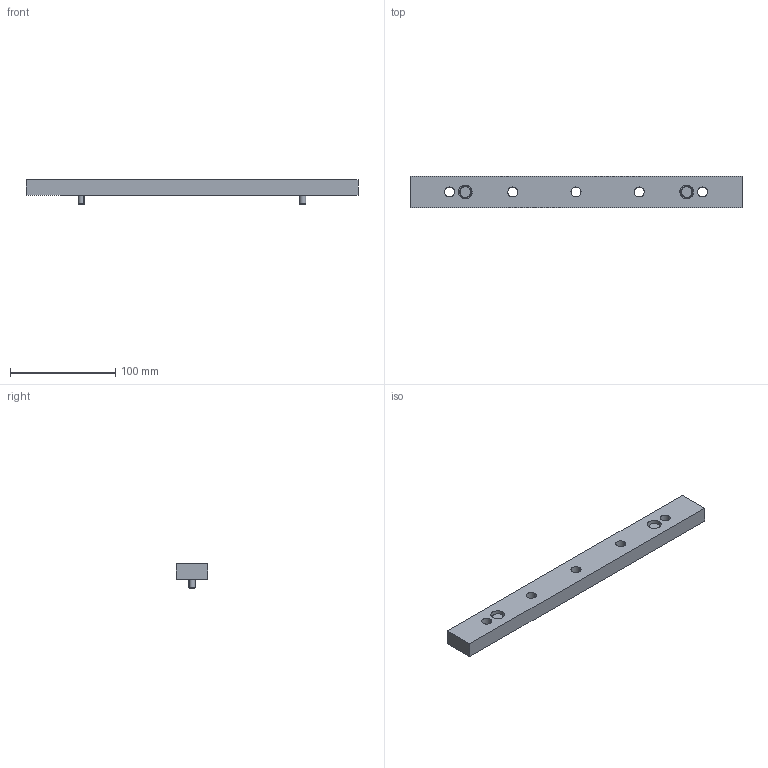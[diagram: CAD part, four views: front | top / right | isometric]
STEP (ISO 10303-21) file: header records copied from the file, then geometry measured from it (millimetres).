
FILE_DESCRIPTION(('STEP AP214'),'1');
FILE_NAME('EGT220_1702475_LEISTE_F_FLANSCHPLATTE_EGT056.CATPart.stp','2015-09-14T13:13:52',('3D-Tool'),(' '),'Spatial InterOp 3D',' ',' ');
FILE_SCHEMA(('automotive_design'));
Length unit declared in the file: millimetre
Products named in the file (3): EGT220_1702475_LEISTE_F_FLANSCHPLATTE_EGT056|5252083.1_Leiste fuer Aufnahmeadapter SW50|5252083.1_Leiste fuer Aufnahmeadapter SW50; EGT220_1702475_LEISTE_F_FLANSCHPLATTE_EGT056|Schraube_M6x15.1_Hauptkörper|Schraube_M6x15.1_Hauptkörper; EGT220_1702475_LEISTE_F_FLANSCHPLATTE_EGT056|Schraube_M6x15.2_Hauptkörper|Schraube_M6x15.2_Hauptkörper
Bounding box: 315 x 30 x 23.4 mm (x, y, z)
Volume: 135442.4 mm3; surface area: 33032.4 mm2
Topology: 3 solids, 3 shells, 52 faces, 148 edges, 108 vertices
Faces by surface type: cylinder 30, plane 16, cone 6
Entity records: 2173 total; most frequent: CARTESIAN_POINT 665, ORIENTED_EDGE 296, EDGE_CURVE 148, DIRECTION 112, VERTEX_POINT 108, EDGE_LOOP 72, STYLED_ITEM 55, PRESENTATION_STYLE_ASSIGNMENT 55
